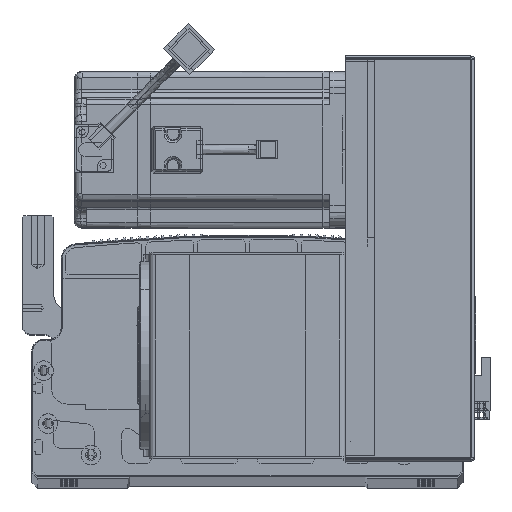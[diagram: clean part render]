
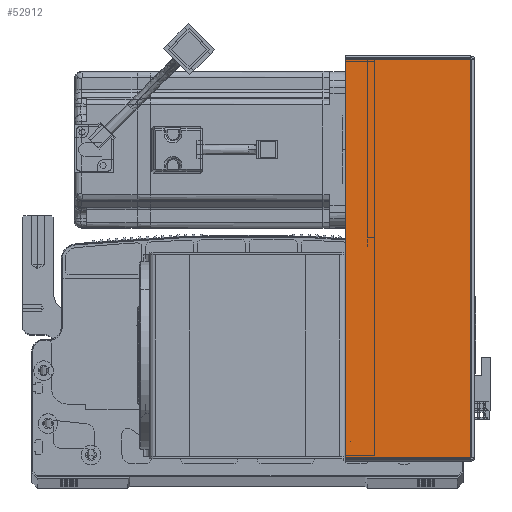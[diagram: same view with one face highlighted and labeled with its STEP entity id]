
A CAD part, top view. The second image highlights one B-rep face of the part: STEP entity #52912.
In plain terms, the highlighted planar face has unit normal (0, 0, 1) as drawn and (0, -1, 0) by its records, which use the part's own axes.
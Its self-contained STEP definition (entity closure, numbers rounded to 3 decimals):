
#5140 = EDGE_CURVE ( 'NONE', #32717, #80921, #29639, .T. ) ;
#6065 = VECTOR ( 'NONE', #49932, 1000. ) ;
#10679 = DIRECTION ( 'NONE',  ( -1., 0., 0. ) ) ;
#13163 = CARTESIAN_POINT ( 'NONE',  ( 64.5, -1.5, -203.293 ) ) ;
#15374 = EDGE_LOOP ( 'NONE', ( #78849, #62233, #27005, #47718 ) ) ;
#19002 = CARTESIAN_POINT ( 'NONE',  ( 0., -1.5, -0.707 ) ) ;
#19058 = VERTEX_POINT ( 'NONE', #13163 ) ;
#19989 = CARTESIAN_POINT ( 'NONE',  ( 0.737, -1.5, -203.293 ) ) ;
#23285 = EDGE_CURVE ( 'NONE', #80921, #61875, #67615, .T. ) ;
#25946 = PLANE ( 'NONE',  #87090 ) ;
#27005 = ORIENTED_EDGE ( 'NONE', *, *, #69513, .T. ) ;
#27419 = VECTOR ( 'NONE', #72583, 1000. ) ;
#29639 = LINE ( 'NONE', #80728, #47384 ) ;
#32717 = VERTEX_POINT ( 'NONE', #19989 ) ;
#34199 = CARTESIAN_POINT ( 'NONE',  ( 0., -1.5, 0. ) ) ;
#41801 = DIRECTION ( 'NONE',  ( 0., 1., 0. ) ) ;
#44108 = DIRECTION ( 'NONE',  ( 1., 0., 0. ) ) ;
#44431 = CARTESIAN_POINT ( 'NONE',  ( 0., -1.5, -203.293 ) ) ;
#47384 = VECTOR ( 'NONE', #57690, 1000. ) ;
#47718 = ORIENTED_EDGE ( 'NONE', *, *, #23285, .F. ) ;
#49510 = EDGE_CURVE ( 'NONE', #32717, #19058, #92260, .T. ) ;
#49932 = DIRECTION ( 'NONE',  ( 0., 0., 1. ) ) ;
#50376 = FACE_OUTER_BOUND ( 'NONE', #15374, .T. ) ;
#52912 = ADVANCED_FACE ( 'NONE', ( #50376 ), #25946, .F. ) ;
#57690 = DIRECTION ( 'NONE',  ( 0., 0., 1. ) ) ;
#61875 = VERTEX_POINT ( 'NONE', #74231 ) ;
#62233 = ORIENTED_EDGE ( 'NONE', *, *, #49510, .T. ) ;
#65793 = CARTESIAN_POINT ( 'NONE',  ( 64.5, -1.5, 0. ) ) ;
#67615 = LINE ( 'NONE', #19002, #27419 ) ;
#69513 = EDGE_CURVE ( 'NONE', #19058, #61875, #91252, .T. ) ;
#72583 = DIRECTION ( 'NONE',  ( 1., 0., 0. ) ) ;
#74231 = CARTESIAN_POINT ( 'NONE',  ( 64.5, -1.5, -0.707 ) ) ;
#78849 = ORIENTED_EDGE ( 'NONE', *, *, #5140, .F. ) ;
#79175 = VECTOR ( 'NONE', #44108, 1000. ) ;
#80728 = CARTESIAN_POINT ( 'NONE',  ( 0.737, -1.5, 0. ) ) ;
#80921 = VERTEX_POINT ( 'NONE', #93249 ) ;
#87090 = AXIS2_PLACEMENT_3D ( 'NONE', #34199, #41801, #10679 ) ;
#91252 = LINE ( 'NONE', #65793, #6065 ) ;
#92260 = LINE ( 'NONE', #44431, #79175 ) ;
#93249 = CARTESIAN_POINT ( 'NONE',  ( 0.737, -1.5, -0.707 ) ) ;
